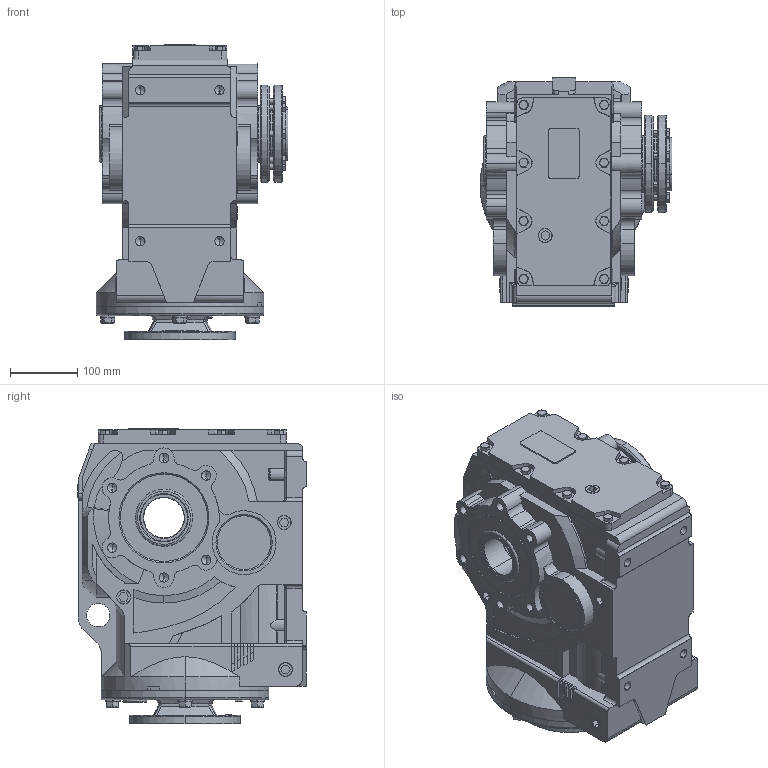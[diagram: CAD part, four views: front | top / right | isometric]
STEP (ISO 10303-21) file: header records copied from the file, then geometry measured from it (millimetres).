
FILE_DESCRIPTION (( 'STEP AP203' ), '1' );
FILE_NAME ('KAN87-143TC-A-POWER LOCK.STEP', '2020-12-04T06:15:52', ( 'Microsoft' ), ( 'Microsoft' ), 'SwSTEP 2.0', 'SolidWorks 2012', '' );
FILE_SCHEMA (( 'CONFIG_CONTROL_DESIGN' ));
Products named in the file (1): KAN87-143TC-A-POWER LOCK
Bounding box: 286 x 340.5 x 439.5 mm (x, y, z)
Volume: 22592892.5 mm3; surface area: 931647.2 mm2
Topology: 2 solids, 26 shells, 1704 faces, 4324 edges, 2745 vertices
Faces by surface type: plane 708, cylinder 517, cone 318, bspline 113, torus 48
Entity records: 60971 total; most frequent: CARTESIAN_POINT 20348, ORIENTED_EDGE 8516, DIRECTION 8299, EDGE_CURVE 4258, AXIS2_PLACEMENT_3D 3053, VERTEX_POINT 2745, LINE 2193, VECTOR 2193
